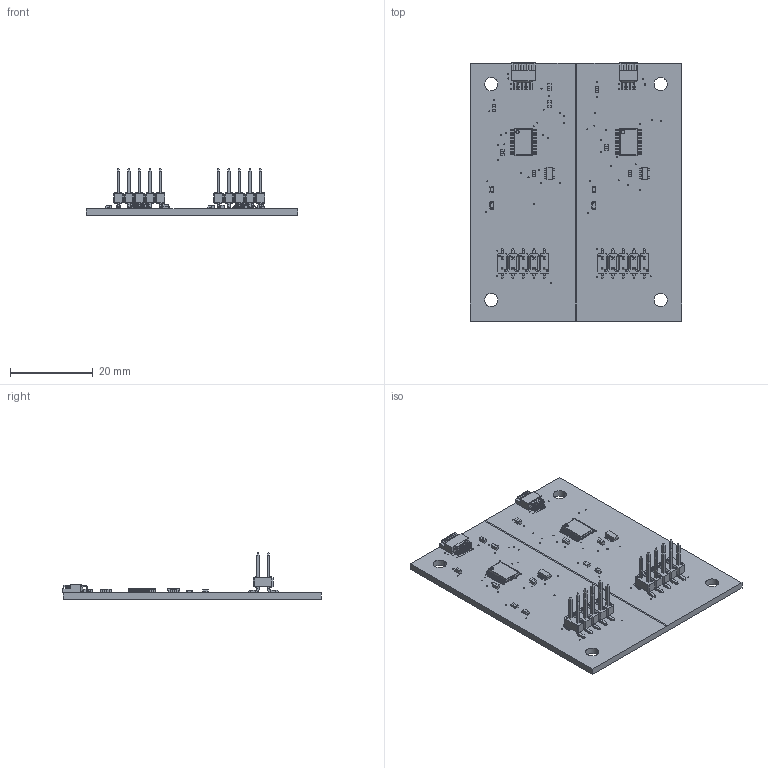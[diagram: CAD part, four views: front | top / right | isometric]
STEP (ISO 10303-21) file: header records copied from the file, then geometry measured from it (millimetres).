
FILE_DESCRIPTION (( 'STEP AP214' ), '1' );
FILE_NAME ('lvds_adapter_v2.STEP', '2022-03-21T18:58:17', ( '' ), ( '' ), 'SwSTEP 2.0', 'SolidWorks 2022', '' );
FILE_SCHEMA (( 'AUTOMOTIVE_DESIGN' ));
Length unit declared in the file: inch
Products named in the file (10): lvds_adapter_v2_PCB; A79633-001; Capacitor 0603; lvds_adapter_v2; SOT 23-5; A79623-001; header_5x2_100mil; LED 0603; TSSOP-20; Resistor 0603
Assembly tree (21 placements, depth 2):
  lvds_adapter_v2
    lvds_adapter_v2_PCB
    Capacitor 0603  x8
    LED 0603  x2
    Resistor 0603  x2
    A79633-001
    header_5x2_100mil  x2
    A79623-001
    SOT 23-5  x2
    TSSOP-20  x2
Bounding box: 51.05 x 62.28 x 11.26 mm (x, y, z)
Volume: 5466.6 mm3; surface area: 8567.2 mm2
Topology: 87 solids, 93 shells, 2500 faces, 6053 edges, 3850 vertices
Faces by surface type: plane 1614, cylinder 774, bspline 68, cone 28, sphere 16
Entity records: 60814 total; most frequent: CARTESIAN_POINT 11721, DIRECTION 7811, ORIENTED_EDGE 7476, EDGE_CURVE 3738, AXIS2_PLACEMENT_3D 2732, VERTEX_POINT 2398, VECTOR 2347, LINE 2347
